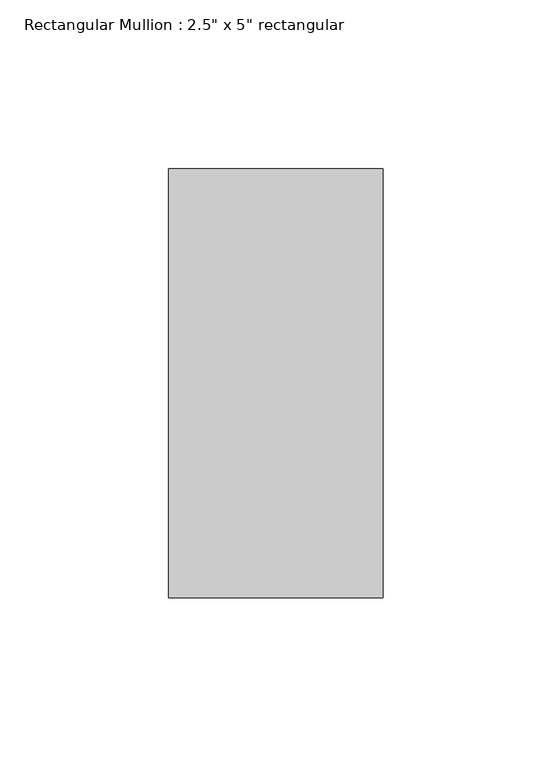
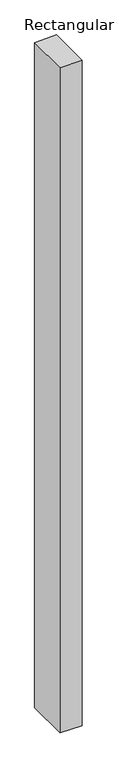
"""IFC4 building model written with IfcOpenShell, lengths in millimetres: member geometry."""

from ifc_helpers import new_model, si_unit, frame, origin, place, context, project, spatial, polyline, outline, extrude, source, transform, mapped, element, save


def member_02a9b408(model_context):
    return source(origin(), model_context, "Body", "SweptSolid", [
        extrude(outline(polyline([(0.0, 0.0), (-1.0411791, -63.5), (-2038.4299503, -63.5), (-2039.0590442, 0.0), (0.0, 0.0)])), frame((0.0, -63.5, 0.0), z_axis=(0.0, 1.0, 0.0), x_axis=(0.0, 0.0, 1.0)), (0.0, 0.0, 1.0), 127.0),
    ])


if __name__ == "__main__":
    model = new_model("IFC4")
    model_context = context("Model", 3, world=origin())
    ifc_project = project(units=[si_unit("LENGTHUNIT", "METRE", prefix="MILLI")], contexts=[model_context])
    site = spatial("IfcSite", under=ifc_project)
    building = spatial("IfcBuilding", under=site)
    placement = place(None, origin())
    member_shape = member_02a9b408(model_context)
    element("IfcMember", 1, ObjectType="Rectangular Mullion : 2.5\" x 5\" rectangular", at=placement, inside=building, context=model_context, shape_type="MappedRepresentation", body=[
        mapped(member_shape, transform((0.0, 0.0, 0.0), x_axis=(1.0, 0.0, 0.0), y_axis=(0.0, 1.0, 0.0), z_axis=(0.0, 0.0, 1.0))),
    ])
    save(model, "model.ifc")
